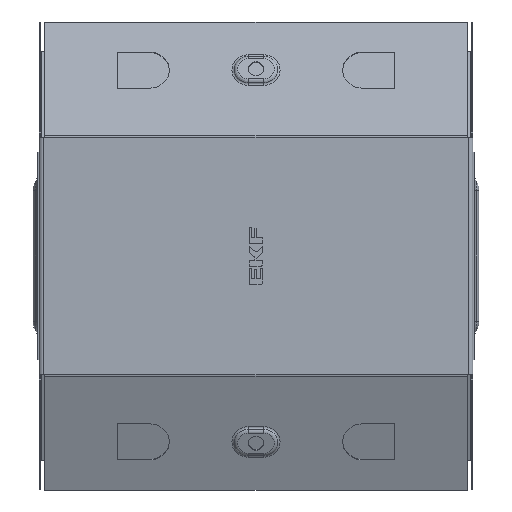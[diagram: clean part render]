
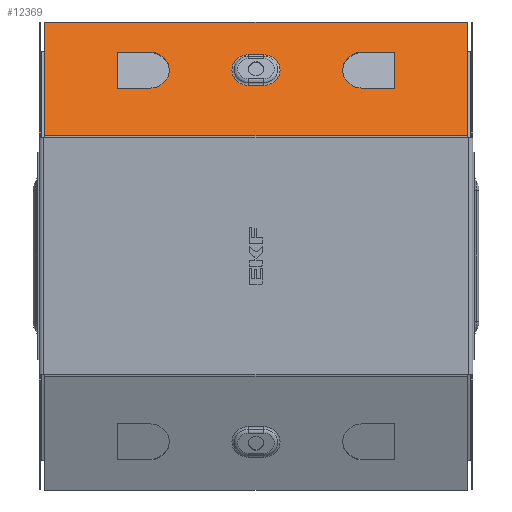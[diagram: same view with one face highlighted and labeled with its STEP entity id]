
A CAD part, front view. The second image highlights one B-rep face of the part: STEP entity #12369.
In plain terms, the highlighted planar face has unit normal (0, -0.924, 0.383).
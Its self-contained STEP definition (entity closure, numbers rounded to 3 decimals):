
#9 = VERTEX_POINT ( 'NONE', #13392 ) ;
#135 = VERTEX_POINT ( 'NONE', #11672 ) ;
#203 = DIRECTION ( 'NONE',  ( -1., 0., 0. ) ) ;
#313 = VECTOR ( 'NONE', #10317, 1000. ) ;
#679 = LINE ( 'NONE', #1827, #13282 ) ;
#821 = CARTESIAN_POINT ( 'NONE',  ( -49., -23.114, 85.712 ) ) ;
#864 = CARTESIAN_POINT ( 'NONE',  ( 97.299, -35.663, 55.416 ) ) ;
#998 = VERTEX_POINT ( 'NONE', #13683 ) ;
#1239 = CARTESIAN_POINT ( 'NONE',  ( -64., -19.67, 94.027 ) ) ;
#1380 = CARTESIAN_POINT ( 'NONE',  ( -97.299, -35.663, 55.416 ) ) ;
#1458 = CARTESIAN_POINT ( 'NONE',  ( 64., -26.558, 77.397 ) ) ;
#1468 = VERTEX_POINT ( 'NONE', #1458 ) ;
#1590 = ORIENTED_EDGE ( 'NONE', *, *, #3564, .T. ) ;
#1672 = VERTEX_POINT ( 'NONE', #6769 ) ;
#1827 = CARTESIAN_POINT ( 'NONE',  ( 64., -19.67, 94.027 ) ) ;
#1943 = AXIS2_PLACEMENT_3D ( 'NONE', #4888, #12429, #10091 ) ;
#1964 = DIRECTION ( 'NONE',  ( 0., -0.383, -0.924 ) ) ;
#2020 = CARTESIAN_POINT ( 'NONE',  ( 98.2, -35.663, 55.416 ) ) ;
#2055 = CARTESIAN_POINT ( 'NONE',  ( 98.2, -13.93, 107.885 ) ) ;
#2159 = AXIS2_PLACEMENT_3D ( 'NONE', #2372, #9767, #9898 ) ;
#2231 = CARTESIAN_POINT ( 'NONE',  ( -3.5, -26.022, 78.692 ) ) ;
#2372 = CARTESIAN_POINT ( 'NONE',  ( 49., -23.114, 85.712 ) ) ;
#2387 = LINE ( 'NONE', #10800, #6568 ) ;
#2446 = ORIENTED_EDGE ( 'NONE', *, *, #10391, .T. ) ;
#2683 = ORIENTED_EDGE ( 'NONE', *, *, #10554, .T. ) ;
#2787 = VECTOR ( 'NONE', #8247, 1000. ) ;
#3127 = LINE ( 'NONE', #12579, #2787 ) ;
#3407 = FACE_BOUND ( 'NONE', #5419, .T. ) ;
#3458 = EDGE_CURVE ( 'NONE', #135, #3729, #3127, .T. ) ;
#3498 = CARTESIAN_POINT ( 'NONE',  ( -3.5, -23.114, 85.712 ) ) ;
#3545 = EDGE_CURVE ( 'NONE', #11645, #135, #11042, .T. ) ;
#3555 = DIRECTION ( 'NONE',  ( 0., 0.383, 0.924 ) ) ;
#3564 = EDGE_CURVE ( 'NONE', #13158, #10467, #13204, .T. ) ;
#3723 = EDGE_CURVE ( 'NONE', #9, #4892, #4466, .T. ) ;
#3729 = VERTEX_POINT ( 'NONE', #1380 ) ;
#3816 = AXIS2_PLACEMENT_3D ( 'NONE', #821, #8396, #1964 ) ;
#3877 = DIRECTION ( 'NONE',  ( 1., 0., 0. ) ) ;
#4264 = VECTOR ( 'NONE', #3877, 1000. ) ;
#4466 = LINE ( 'NONE', #10977, #13729 ) ;
#4558 = LINE ( 'NONE', #12492, #7756 ) ;
#4805 = VECTOR ( 'NONE', #6258, 1000. ) ;
#4888 = CARTESIAN_POINT ( 'NONE',  ( 3.5, -23.114, 85.712 ) ) ;
#4892 = VERTEX_POINT ( 'NONE', #2231 ) ;
#4926 = EDGE_CURVE ( 'NONE', #6462, #13158, #12920, .T. ) ;
#4939 = LINE ( 'NONE', #5185, #5293 ) ;
#4978 = DIRECTION ( 'NONE',  ( -1., 0., 0. ) ) ;
#5001 = DIRECTION ( 'NONE',  ( -1., 0., 0. ) ) ;
#5038 = EDGE_CURVE ( 'NONE', #4892, #5230, #10069, .T. ) ;
#5185 = CARTESIAN_POINT ( 'NONE',  ( 97.299, -35.864, 54.931 ) ) ;
#5186 = LINE ( 'NONE', #11418, #8394 ) ;
#5230 = VERTEX_POINT ( 'NONE', #10706 ) ;
#5231 = CIRCLE ( 'NONE', #1943, 7.598 ) ;
#5293 = VECTOR ( 'NONE', #6294, 1000. ) ;
#5345 = VECTOR ( 'NONE', #7303, 1000. ) ;
#5419 = EDGE_LOOP ( 'NONE', ( #13116, #11732, #9424, #13874 ) ) ;
#5725 = AXIS2_PLACEMENT_3D ( 'NONE', #12215, #11180, #3555 ) ;
#5741 = ORIENTED_EDGE ( 'NONE', *, *, #7656, .F. ) ;
#5743 = ORIENTED_EDGE ( 'NONE', *, *, #4926, .T. ) ;
#5971 = EDGE_CURVE ( 'NONE', #1672, #12859, #7955, .T. ) ;
#5993 = VERTEX_POINT ( 'NONE', #864 ) ;
#6258 = DIRECTION ( 'NONE',  ( -1., 0., 0. ) ) ;
#6294 = DIRECTION ( 'NONE',  ( 0., 0.383, 0.924 ) ) ;
#6462 = VERTEX_POINT ( 'NONE', #1239 ) ;
#6489 = VERTEX_POINT ( 'NONE', #13877 ) ;
#6568 = VECTOR ( 'NONE', #7716, 1000. ) ;
#6769 = CARTESIAN_POINT ( 'NONE',  ( 49., -19.67, 94.027 ) ) ;
#6786 = ORIENTED_EDGE ( 'NONE', *, *, #5038, .T. ) ;
#6837 = CARTESIAN_POINT ( 'NONE',  ( 97.299, -13.93, 107.885 ) ) ;
#6912 = PLANE ( 'NONE',  #5725 ) ;
#7107 = EDGE_CURVE ( 'NONE', #10335, #1672, #8261, .T. ) ;
#7130 = CARTESIAN_POINT ( 'NONE',  ( -64., -19.67, 94.027 ) ) ;
#7212 = CARTESIAN_POINT ( 'NONE',  ( -49., -19.67, 94.027 ) ) ;
#7303 = DIRECTION ( 'NONE',  ( 1., 0., 0. ) ) ;
#7441 = ORIENTED_EDGE ( 'NONE', *, *, #3458, .T. ) ;
#7656 = EDGE_CURVE ( 'NONE', #5993, #3729, #9872, .T. ) ;
#7716 = DIRECTION ( 'NONE',  ( 1., 0., 0. ) ) ;
#7756 = VECTOR ( 'NONE', #5001, 1000. ) ;
#7955 = LINE ( 'NONE', #13471, #4264 ) ;
#8247 = DIRECTION ( 'NONE',  ( 0., -0.383, -0.924 ) ) ;
#8249 = DIRECTION ( 'NONE',  ( 0., -0.383, -0.924 ) ) ;
#8261 = CIRCLE ( 'NONE', #2159, 9. ) ;
#8303 = CARTESIAN_POINT ( 'NONE',  ( 49., -26.558, 77.397 ) ) ;
#8353 = CARTESIAN_POINT ( 'NONE',  ( -49., -26.558, 77.397 ) ) ;
#8394 = VECTOR ( 'NONE', #4978, 1000. ) ;
#8396 = DIRECTION ( 'NONE',  ( 0., 0.924, -0.383 ) ) ;
#8857 = EDGE_CURVE ( 'NONE', #5993, #11645, #4939, .T. ) ;
#8877 = AXIS2_PLACEMENT_3D ( 'NONE', #3498, #10095, #12254 ) ;
#8973 = ORIENTED_EDGE ( 'NONE', *, *, #3723, .T. ) ;
#8975 = FACE_BOUND ( 'NONE', #9178, .T. ) ;
#9178 = EDGE_LOOP ( 'NONE', ( #2446, #2683, #8973, #6786 ) ) ;
#9424 = ORIENTED_EDGE ( 'NONE', *, *, #5971, .T. ) ;
#9767 = DIRECTION ( 'NONE',  ( 0., 0.924, -0.383 ) ) ;
#9801 = EDGE_LOOP ( 'NONE', ( #7441, #5741, #11838, #12666 ) ) ;
#9844 = ORIENTED_EDGE ( 'NONE', *, *, #10332, .T. ) ;
#9872 = LINE ( 'NONE', #2020, #12725 ) ;
#9898 = DIRECTION ( 'NONE',  ( 0., 0.383, 0.924 ) ) ;
#10069 = CIRCLE ( 'NONE', #8877, 7.598 ) ;
#10091 = DIRECTION ( 'NONE',  ( 0., 0.383, 0.924 ) ) ;
#10095 = DIRECTION ( 'NONE',  ( 0., 0.924, -0.383 ) ) ;
#10317 = DIRECTION ( 'NONE',  ( 0., 0.383, 0.924 ) ) ;
#10332 = EDGE_CURVE ( 'NONE', #10467, #6489, #4558, .T. ) ;
#10335 = VERTEX_POINT ( 'NONE', #8303 ) ;
#10391 = EDGE_CURVE ( 'NONE', #5230, #998, #2387, .T. ) ;
#10467 = VERTEX_POINT ( 'NONE', #8353 ) ;
#10554 = EDGE_CURVE ( 'NONE', #998, #9, #5231, .T. ) ;
#10706 = CARTESIAN_POINT ( 'NONE',  ( -3.5, -20.206, 92.731 ) ) ;
#10787 = ORIENTED_EDGE ( 'NONE', *, *, #13072, .T. ) ;
#10800 = CARTESIAN_POINT ( 'NONE',  ( 3.5, -20.206, 92.731 ) ) ;
#10971 = CARTESIAN_POINT ( 'NONE',  ( 64., -19.67, 94.027 ) ) ;
#10977 = CARTESIAN_POINT ( 'NONE',  ( 3.5, -26.022, 78.692 ) ) ;
#11042 = LINE ( 'NONE', #2055, #4805 ) ;
#11180 = DIRECTION ( 'NONE',  ( 0., 0.924, -0.383 ) ) ;
#11290 = EDGE_CURVE ( 'NONE', #12859, #1468, #679, .T. ) ;
#11418 = CARTESIAN_POINT ( 'NONE',  ( 49., -26.558, 77.397 ) ) ;
#11482 = FACE_OUTER_BOUND ( 'NONE', #9801, .T. ) ;
#11645 = VERTEX_POINT ( 'NONE', #6837 ) ;
#11672 = CARTESIAN_POINT ( 'NONE',  ( -97.299, -13.93, 107.885 ) ) ;
#11732 = ORIENTED_EDGE ( 'NONE', *, *, #7107, .T. ) ;
#11838 = ORIENTED_EDGE ( 'NONE', *, *, #8857, .T. ) ;
#11938 = LINE ( 'NONE', #7130, #313 ) ;
#12215 = CARTESIAN_POINT ( 'NONE',  ( 98.2, -35.8, 55.085 ) ) ;
#12254 = DIRECTION ( 'NONE',  ( 0., 0.383, 0.924 ) ) ;
#12306 = EDGE_LOOP ( 'NONE', ( #10787, #5743, #1590, #9844 ) ) ;
#12369 = ADVANCED_FACE ( 'NONE', ( #3407, #12506, #8975, #11482 ), #6912, .F. ) ;
#12429 = DIRECTION ( 'NONE',  ( 0., 0.924, -0.383 ) ) ;
#12492 = CARTESIAN_POINT ( 'NONE',  ( -49., -26.558, 77.397 ) ) ;
#12506 = FACE_BOUND ( 'NONE', #12306, .T. ) ;
#12579 = CARTESIAN_POINT ( 'NONE',  ( -97.299, -35.8, 55.085 ) ) ;
#12666 = ORIENTED_EDGE ( 'NONE', *, *, #3545, .T. ) ;
#12725 = VECTOR ( 'NONE', #12770, 1000. ) ;
#12770 = DIRECTION ( 'NONE',  ( -1., 0., 0. ) ) ;
#12859 = VERTEX_POINT ( 'NONE', #10971 ) ;
#12920 = LINE ( 'NONE', #7212, #5345 ) ;
#13072 = EDGE_CURVE ( 'NONE', #6489, #6462, #11938, .T. ) ;
#13116 = ORIENTED_EDGE ( 'NONE', *, *, #13174, .T. ) ;
#13158 = VERTEX_POINT ( 'NONE', #13542 ) ;
#13174 = EDGE_CURVE ( 'NONE', #1468, #10335, #5186, .T. ) ;
#13204 = CIRCLE ( 'NONE', #3816, 9. ) ;
#13282 = VECTOR ( 'NONE', #8249, 1000. ) ;
#13392 = CARTESIAN_POINT ( 'NONE',  ( 3.5, -26.022, 78.692 ) ) ;
#13471 = CARTESIAN_POINT ( 'NONE',  ( 49., -19.67, 94.027 ) ) ;
#13542 = CARTESIAN_POINT ( 'NONE',  ( -49., -19.67, 94.027 ) ) ;
#13683 = CARTESIAN_POINT ( 'NONE',  ( 3.5, -20.206, 92.731 ) ) ;
#13729 = VECTOR ( 'NONE', #203, 1000. ) ;
#13874 = ORIENTED_EDGE ( 'NONE', *, *, #11290, .T. ) ;
#13877 = CARTESIAN_POINT ( 'NONE',  ( -64., -26.558, 77.397 ) ) ;
